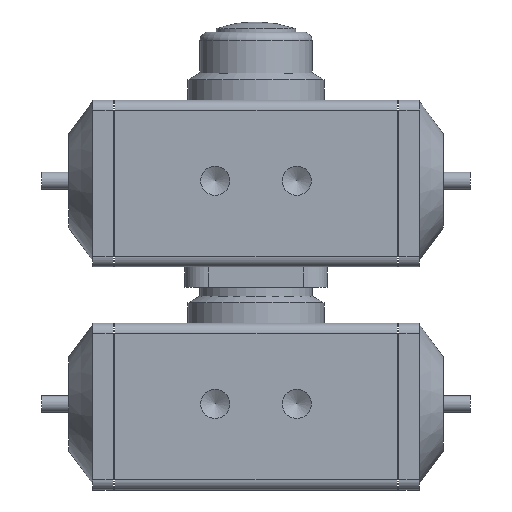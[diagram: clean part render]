
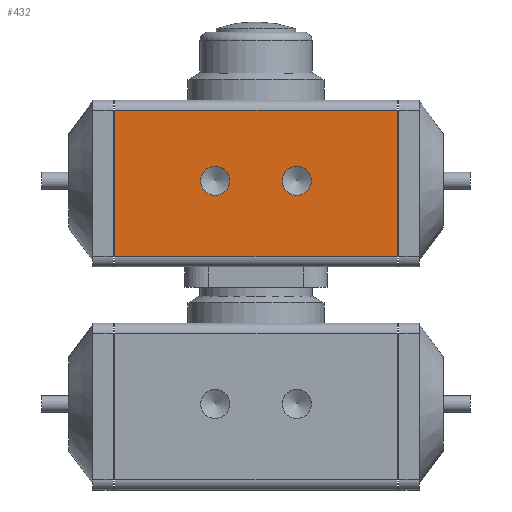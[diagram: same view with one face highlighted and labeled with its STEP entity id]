
A CAD part, front view. The second image highlights one B-rep face of the part: STEP entity #432.
In plain terms, the highlighted planar face has unit normal (0, -1, 0).
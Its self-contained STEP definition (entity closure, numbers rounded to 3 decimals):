
#432 = ADVANCED_FACE( '', ( #1222, #1223, #1224 ), #1225, .F. );
#1222 = FACE_BOUND( '', #2514, .T. );
#1223 = FACE_BOUND( '', #2515, .T. );
#1224 = FACE_OUTER_BOUND( '', #2516, .T. );
#1225 = PLANE( '', #2517 );
#2514 = EDGE_LOOP( '', ( #5693 ) );
#2515 = EDGE_LOOP( '', ( #5694 ) );
#2516 = EDGE_LOOP( '', ( #5695, #5696, #5697, #5698 ) );
#2517 = AXIS2_PLACEMENT_3D( '', #5699, #5700, #5701 );
#5693 = ORIENTED_EDGE( '', *, *, #8835, .T. );
#5694 = ORIENTED_EDGE( '', *, *, #8836, .T. );
#5695 = ORIENTED_EDGE( '', *, *, #8837, .T. );
#5696 = ORIENTED_EDGE( '', *, *, #8838, .T. );
#5697 = ORIENTED_EDGE( '', *, *, #8839, .F. );
#5698 = ORIENTED_EDGE( '', *, *, #8840, .T. );
#5699 = CARTESIAN_POINT( '', ( 41.5, -30., 23.7 ) );
#5700 = DIRECTION( '', ( 0., 1., 0. ) );
#5701 = DIRECTION( '', ( 0., 0., 1. ) );
#8835 = EDGE_CURVE( '', #10118, #10118, #10119, .T. );
#8836 = EDGE_CURVE( '', #10120, #10120, #10121, .T. );
#8837 = EDGE_CURVE( '', #10122, #10123, #10124, .T. );
#8838 = EDGE_CURVE( '', #10123, #10125, #10126, .F. );
#8839 = EDGE_CURVE( '', #10127, #10125, #10128, .T. );
#8840 = EDGE_CURVE( '', #10127, #10122, #10129, .T. );
#10118 = VERTEX_POINT( '', #12092 );
#10119 = CIRCLE( '', #12093, 4.283 );
#10120 = VERTEX_POINT( '', #12094 );
#10121 = CIRCLE( '', #12095, 4.283 );
#10122 = VERTEX_POINT( '', #12096 );
#10123 = VERTEX_POINT( '', #12097 );
#10124 = LINE( '', #12098, #12099 );
#10125 = VERTEX_POINT( '', #12100 );
#10126 = LINE( '', #12101, #12102 );
#10127 = VERTEX_POINT( '', #12103 );
#10128 = LINE( '', #12104, #12105 );
#10129 = LINE( '', #12106, #12107 );
#12092 = CARTESIAN_POINT( '', ( -12., -30., -4.283 ) );
#12093 = AXIS2_PLACEMENT_3D( '', #16694, #16695, #16696 );
#12094 = CARTESIAN_POINT( '', ( 12., -30., -4.283 ) );
#12095 = AXIS2_PLACEMENT_3D( '', #16697, #16698, #16699 );
#12096 = CARTESIAN_POINT( '', ( -41.5, -30., 20.7 ) );
#12097 = CARTESIAN_POINT( '', ( -41.5, -30., -22.3 ) );
#12098 = CARTESIAN_POINT( '', ( -41.5, -30., 23.7 ) );
#12099 = VECTOR( '', #16700, 1000. );
#12100 = CARTESIAN_POINT( '', ( 41.5, -30., -22.3 ) );
#12101 = CARTESIAN_POINT( '', ( 41.5, -30., -22.3 ) );
#12102 = VECTOR( '', #16701, 1000. );
#12103 = CARTESIAN_POINT( '', ( 41.5, -30., 20.7 ) );
#12104 = CARTESIAN_POINT( '', ( 41.5, -30., 23.7 ) );
#12105 = VECTOR( '', #16702, 1000. );
#12106 = CARTESIAN_POINT( '', ( 41.5, -30., 20.7 ) );
#12107 = VECTOR( '', #16703, 1000. );
#16694 = CARTESIAN_POINT( '', ( -12., -30., 0. ) );
#16695 = DIRECTION( '', ( 0., 1., 0. ) );
#16696 = DIRECTION( '', ( 0., 0., -1. ) );
#16697 = CARTESIAN_POINT( '', ( 12., -30., 0. ) );
#16698 = DIRECTION( '', ( 0., 1., 0. ) );
#16699 = DIRECTION( '', ( 0., 0., -1. ) );
#16700 = DIRECTION( '', ( 0., 0., -1. ) );
#16701 = DIRECTION( '', ( -1., 0., 0. ) );
#16702 = DIRECTION( '', ( 0., 0., -1. ) );
#16703 = DIRECTION( '', ( -1., 0., 0. ) );
